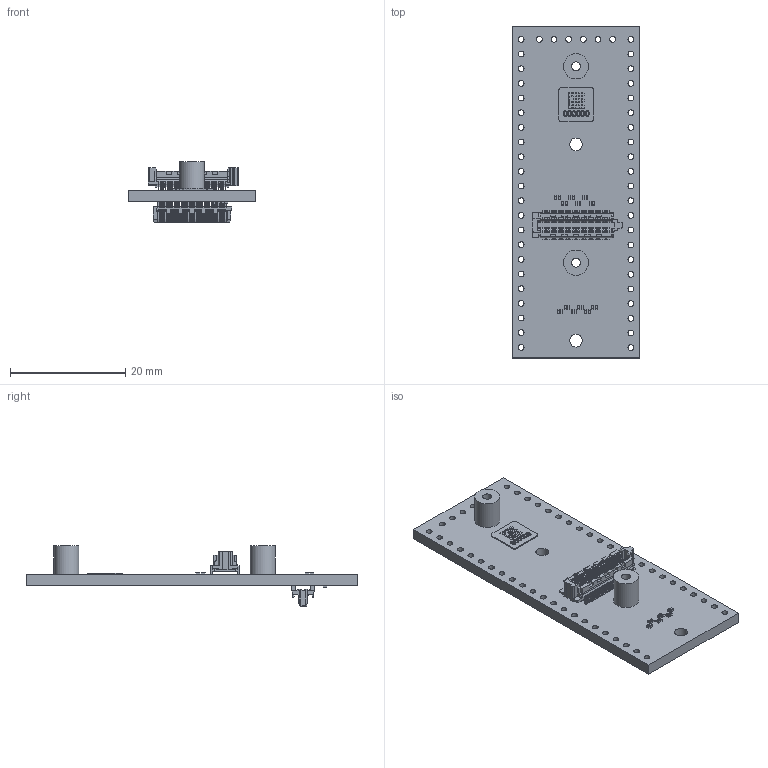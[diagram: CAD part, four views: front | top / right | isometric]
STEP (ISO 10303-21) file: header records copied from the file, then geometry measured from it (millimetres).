
FILE_DESCRIPTION(('Open CASCADE Model'),'2;1');
FILE_NAME('Open CASCADE Shape Model','2021-06-18T11:09:17',('Author'),( 'Open CASCADE'),'Open CASCADE STEP processor 6.8','Open CASCADE 6.8' ,'Unknown');
FILE_SCHEMA(('AUTOMOTIVE_DESIGN { 1 0 10303 214 1 1 1 1 }'));
Length unit declared in the file: millimetre
Products named in the file (45): PCB; Board=projectname; Open CASCADE STEP translator 6.8 3.1.1; J1=projectname; ST4-30-1.50-L-D_RGB16777215; _ST4-30-1.50-L-D_terminal; _ST4-30-1.50-L-D_pin; Serial1=projectname; Label; H3=projectname; 9774050243R_(rev1); J2=projectname; SS4-30-3.50-L-D_RGB16777215; _SS4-30_socket; _C-229-30-3.50; H4=projectname; R1=projectname; RES_0603-0201; R2=projectname; R3=projectname; R4=projectname; R5=projectname; R6=projectname; R7=projectname; R8=projectname; R9=projectname; R10=projectname; R11=projectname; R12=projectname; R24=projectname; R23=projectname; R22=projectname; R21=projectname; R20=projectname; R19=projectname; R18=projectname; R17=projectname; R16=projectname; R15=projectname; R14=projectname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
Assembly tree (72 placements, depth 4):
  PCB
    Board=projectname
      Open CASCADE STEP translator 6.8 3.1.1
    J1=projectname
      ST4-30-1.50-L-D_RGB16777215
        _ST4-30-1.50-L-D_terminal
        _ST4-30-1.50-L-D_pin
    Serial1=projectname
      Label
    H3=projectname
      9774050243R_(rev1)
    J2=projectname
      SS4-30-3.50-L-D_RGB16777215
        _SS4-30_socket
        _C-229-30-3.50
    H4=projectname
      9774050243R_(rev1)
    R1=projectname
      RES_0603-0201
    R2=projectname
      RES_0603-0201
    R3=projectname
      RES_0603-0201
    R4=projectname
      RES_0603-0201
    R5=projectname
      RES_0603-0201
    R6=projectname
      RES_0603-0201
    R7=projectname
      RES_0603-0201
    R8=projectname
      RES_0603-0201
    R9=projectname
      RES_0603-0201
    R10=projectname
      RES_0603-0201
    R11=projectname
      RES_0603-0201
    R12=projectname
      RES_0603-0201
    R24=projectname
      RES_0603-0201
    R23=projectname
      RES_0603-0201
    R22=projectname
      RES_0603-0201
    R21=projectname
      RES_0603-0201
    R20=projectname
      RES_0603-0201
    R19=projectname
      RES_0603-0201
    R18=projectname
      RES_0603-0201
    R17=projectname
      RES_0603-0201
    R16=projectname
      RES_0603-0201
    R15=projectname
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Bounding box: 22 x 57.5 x 10.51 mm (x, y, z)
Volume: 2680.5 mm3; surface area: 5098.4 mm2
Topology: 120 solids, 120 shells, 5471 faces, 16232 edges, 10790 vertices
Faces by surface type: plane 4603, cylinder 808, bspline 60
Full cylindrical faces by diameter (mm): 1 x50, 1.567 x2, 2.2 x2, 2.8 x2, 3 x2, 4.35 x2
Entity records: 193993 total; most frequent: CARTESIAN_POINT 31240, ORIENTED_EDGE 27262, DIRECTION 24095, EDGE_CURVE 13631, LINE 11717, VECTOR 11717, VERTEX_POINT 9056, AXIS2_PLACEMENT_3D 6189
